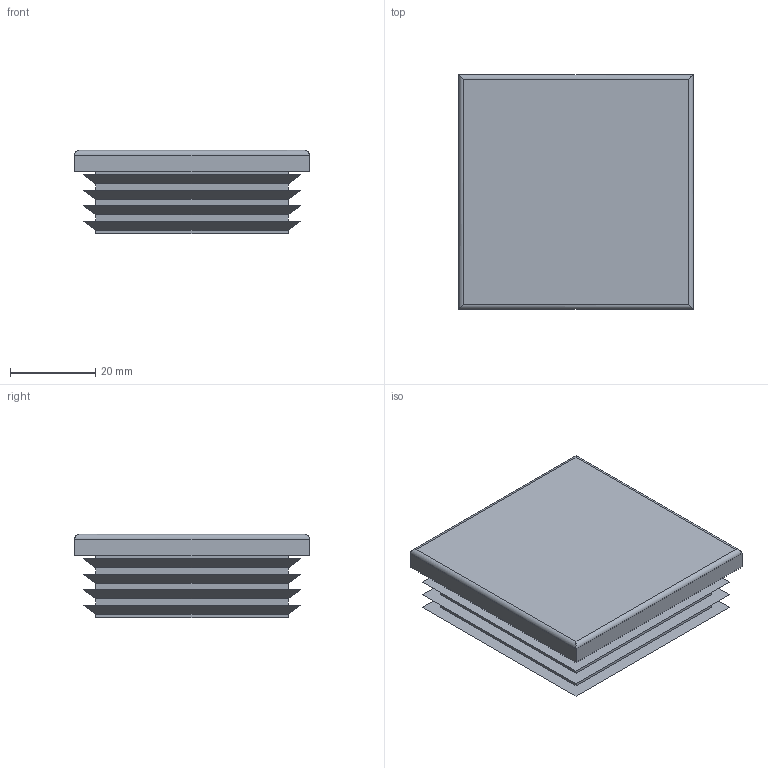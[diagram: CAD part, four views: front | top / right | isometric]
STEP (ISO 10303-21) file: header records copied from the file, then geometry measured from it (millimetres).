
FILE_DESCRIPTION (( 'STEP AP203' ), '1' );
FILE_NAME ('pec-q55-bk.STEP', '2021-10-26T04:52:33', ( '' ), ( '' ), 'SwSTEP 2.0', 'SolidWorks 2020', '' );
FILE_SCHEMA (( 'CONFIG_CONTROL_DESIGN' ));
Length unit declared in the file: millimetre
Products named in the file (1): pec-q55-bk
Bounding box: 55 x 55 x 19.5 mm (x, y, z)
Volume: 46800.4 mm3; surface area: 13259.7 mm2
Topology: 1 solids, 1 shells, 51 faces, 112 edges, 68 vertices
Faces by surface type: plane 47, cylinder 4
Entity records: 1423 total; most frequent: CARTESIAN_POINT 244, ORIENTED_EDGE 224, DIRECTION 212, EDGE_CURVE 112, LINE 108, VECTOR 108, VERTEX_POINT 68, EDGE_LOOP 56
